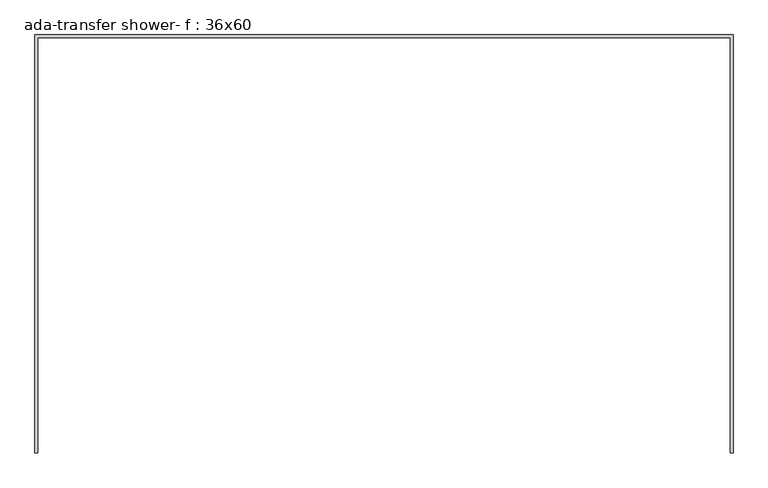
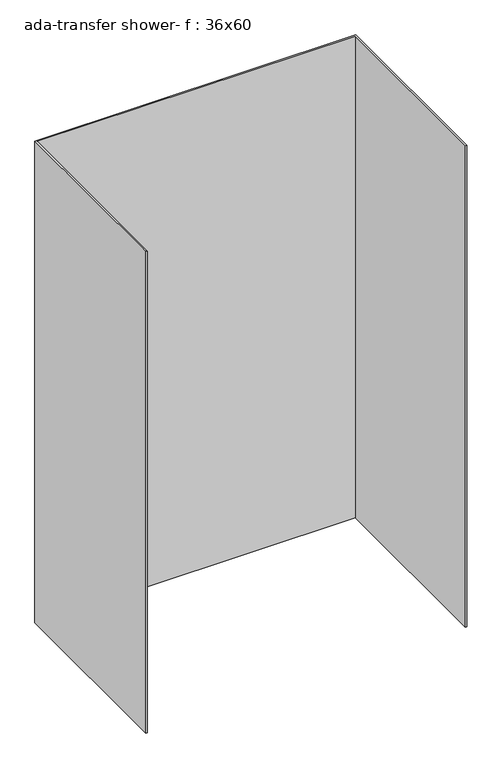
"""IFC4 building model written with IfcOpenShell, lengths in millimetres: flow terminal geometry, ada-transfer shower- f : 36x60."""

from ifc_helpers import new_model, si_unit, origin, origin_with_axes, place, context, project, spatial, polyline, outline, extrude, source, transform, mapped, element, save


def ada_transfer_shower_f_36x60_f5ea6e93(model_context):
    return source(origin(), model_context, "Body", "SweptSolid", [
        extrude(outline(polyline([(1536.7, 0.0), (1536.7, -920.75), (1530.35, -920.75), (1530.35, -6.35), (6.35, -6.35), (6.35, -920.75), (0.0, -920.75), (0.0, 0.0), (1536.7, 0.0)])), origin_with_axes(), (0.0, 0.0, 1.0), 2438.4),
    ])


if __name__ == "__main__":
    model = new_model("IFC4")
    model_context = context("Model", 3, world=origin())
    ifc_project = project(units=[si_unit("LENGTHUNIT", "METRE", prefix="MILLI")], contexts=[model_context])
    site = spatial("IfcSite", under=ifc_project)
    building = spatial("IfcBuilding", under=site)
    placement = place(None, origin())
    ada_transfer_shower_f_36x60_shape = ada_transfer_shower_f_36x60_f5ea6e93(model_context)
    element("IfcFlowTerminal", 1, ObjectType="ada-transfer shower- f : 36x60", at=placement, inside=building, context=model_context, shape_type="MappedRepresentation", body=[
        mapped(ada_transfer_shower_f_36x60_shape, transform((0.0, 0.0, 0.0), x_axis=(1.0, 0.0, 0.0), y_axis=(0.0, 1.0, 0.0), z_axis=(0.0, 0.0, 1.0))),
    ])
    save(model, "model.ifc")
